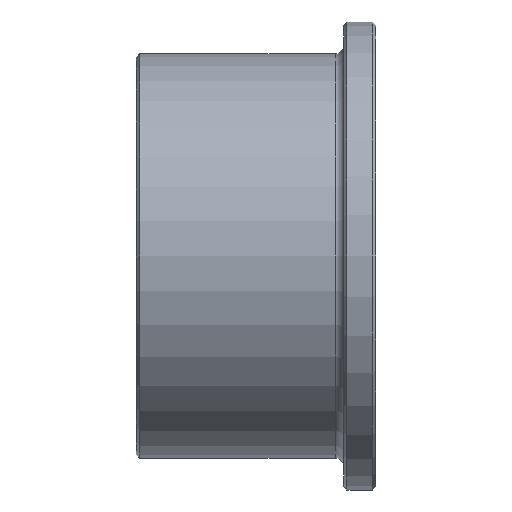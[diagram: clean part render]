
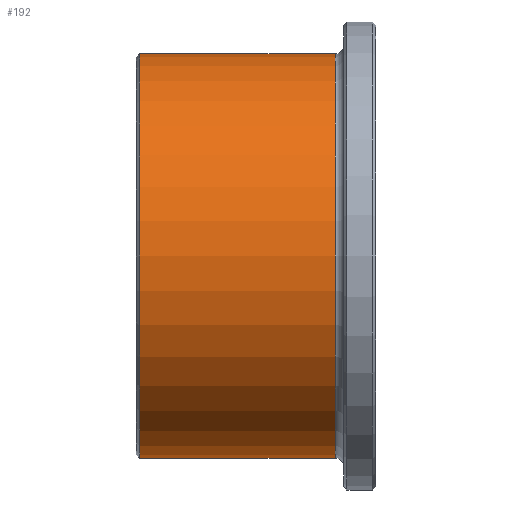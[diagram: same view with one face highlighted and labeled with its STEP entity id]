
A CAD part, front view. The second image highlights one B-rep face of the part: STEP entity #192.
In plain terms, the highlighted cylindrical face has radius 19 mm (diameter 38 mm), a full revolution.
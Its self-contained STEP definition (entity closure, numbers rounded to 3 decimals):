
#26=LINE('',#337,#34);
#34=VECTOR('',#268,19.);
#42=CYLINDRICAL_SURFACE('',#228,19.);
#46=FACE_OUTER_BOUND('',#58,.T.);
#58=EDGE_LOOP('',(#141,#142,#143,#144,#145,#146));
#72=CIRCLE('',#224,19.);
#75=CIRCLE('',#227,19.);
#76=CIRCLE('',#229,19.);
#77=CIRCLE('',#230,19.);
#91=VERTEX_POINT('',#328);
#92=VERTEX_POINT('',#329);
#94=VERTEX_POINT('',#336);
#95=VERTEX_POINT('',#338);
#109=EDGE_CURVE('',#91,#92,#72,.T.);
#112=EDGE_CURVE('',#92,#91,#75,.T.);
#113=EDGE_CURVE('',#91,#94,#26,.T.);
#114=EDGE_CURVE('',#95,#94,#76,.T.);
#115=EDGE_CURVE('',#94,#95,#77,.T.);
#141=ORIENTED_EDGE('',*,*,#109,.F.);
#142=ORIENTED_EDGE('',*,*,#113,.T.);
#143=ORIENTED_EDGE('',*,*,#114,.F.);
#144=ORIENTED_EDGE('',*,*,#115,.F.);
#145=ORIENTED_EDGE('',*,*,#113,.F.);
#146=ORIENTED_EDGE('',*,*,#112,.F.);
#192=ADVANCED_FACE('',(#46),#42,.T.);
#224=AXIS2_PLACEMENT_3D('',#330,#258,#259);
#227=AXIS2_PLACEMENT_3D('',#334,#264,#265);
#228=AXIS2_PLACEMENT_3D('',#335,#266,#267);
#229=AXIS2_PLACEMENT_3D('',#339,#269,#270);
#230=AXIS2_PLACEMENT_3D('',#340,#271,#272);
#258=DIRECTION('center_axis',(1.,0.,0.));
#259=DIRECTION('ref_axis',(0.,-1.,0.));
#264=DIRECTION('center_axis',(1.,0.,0.));
#265=DIRECTION('ref_axis',(0.,-1.,0.));
#266=DIRECTION('center_axis',(1.,0.,0.));
#267=DIRECTION('ref_axis',(0.,1.,0.));
#268=DIRECTION('',(-1.,0.,0.));
#269=DIRECTION('center_axis',(-1.,0.,0.));
#270=DIRECTION('ref_axis',(0.,-1.,0.));
#271=DIRECTION('center_axis',(-1.,0.,0.));
#272=DIRECTION('ref_axis',(0.,-1.,0.));
#328=CARTESIAN_POINT('',(-3.8,-19.,0.));
#329=CARTESIAN_POINT('',(-3.8,0.,19.));
#330=CARTESIAN_POINT('Origin',(-3.8,0.,0.));
#334=CARTESIAN_POINT('Origin',(-3.8,0.,0.));
#335=CARTESIAN_POINT('Origin',(-12.75,0.,0.));
#336=CARTESIAN_POINT('',(-22.2,-19.,0.));
#337=CARTESIAN_POINT('',(-12.75,-19.,0.));
#338=CARTESIAN_POINT('',(-22.2,19.,0.));
#339=CARTESIAN_POINT('Origin',(-22.2,0.,0.));
#340=CARTESIAN_POINT('Origin',(-22.2,0.,0.));
